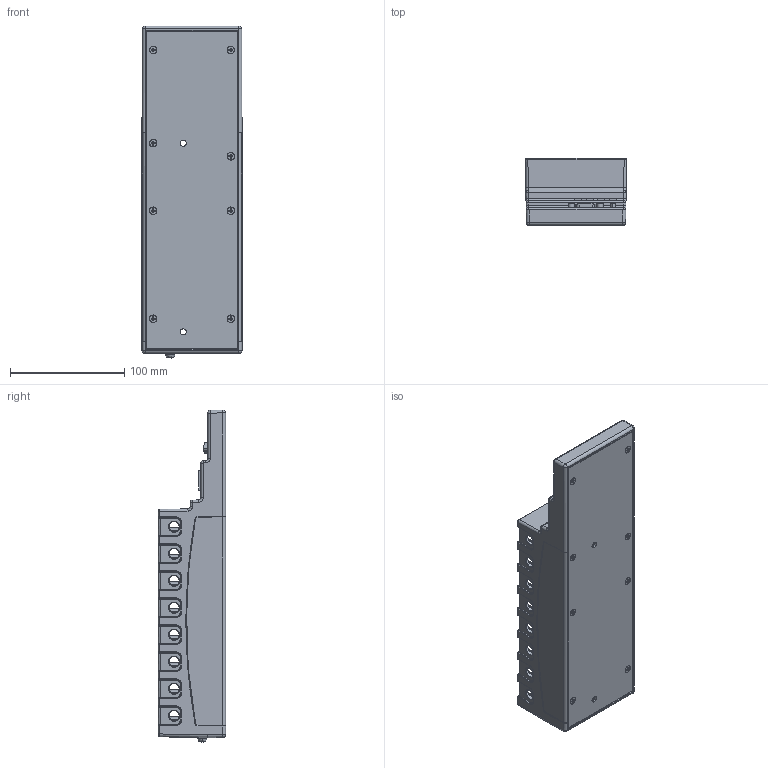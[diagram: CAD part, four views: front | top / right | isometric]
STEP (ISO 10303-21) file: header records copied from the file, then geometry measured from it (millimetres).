
FILE_DESCRIPTION((''),'2;1');
FILE_NAME('CD_CRIO-9074','2008-01-04T',('chrisj'),(''),'PRO/ENGINEER BY PARAMETRIC TECHNOLOGY CORPORATION, 2006300','PRO/ENGINEER BY PARAMETRIC TECHNOLOGY CORPORATION, 2006300','');
FILE_SCHEMA(('AUTOMOTIVE_DESIGN_CC2 { 1 2 10303 214 -1 1 5 2 }'));
Products named in the file (1): CD_CRIO-9074
Bounding box: 88.1 x 58.88 x 290.41 mm (x, y, z)
Volume: 272245.6 mm3; surface area: 182441.7 mm2
Topology: 43 solids, 43 shells, 4328 faces, 9915 edges, 5857 vertices
Faces by surface type: plane 1642, cylinder 1443, bspline 561, torus 285, cone 249, sphere 148
Entity records: 181810 total; most frequent: CARTESIAN_POINT 86890, ORIENTED_EDGE 19740, DIRECTION 19512, EDGE_CURVE 9870, AXIS2_PLACEMENT_3D 7215, VERTEX_POINT 6028, VECTOR 5082, LINE 5082
